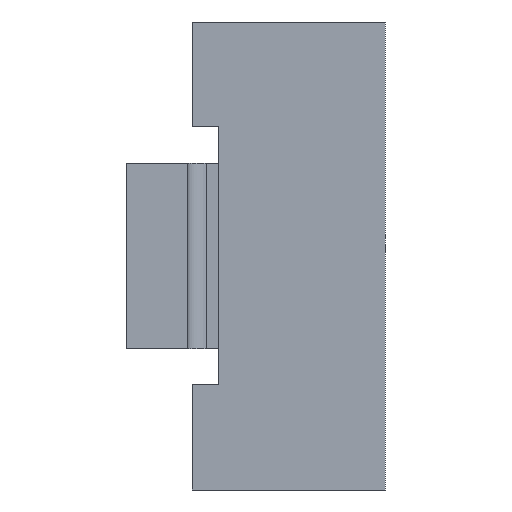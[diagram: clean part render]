
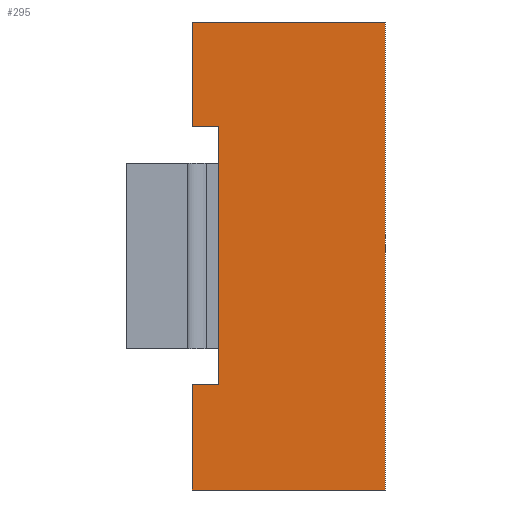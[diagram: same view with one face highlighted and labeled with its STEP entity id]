
A CAD part, left-side view. The second image highlights one B-rep face of the part: STEP entity #295.
In plain terms, the highlighted planar face has unit normal (-1, 0, 0).
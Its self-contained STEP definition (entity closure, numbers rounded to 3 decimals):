
#175=PLANE('',#2525);
#295=ADVANCED_FACE('',(#415),#175,.T.);
#415=FACE_OUTER_BOUND('',#544,.F.);
#544=EDGE_LOOP('',(#1182,#1183,#1184,#1185,#1186,#1187,#1188,#1189));
#1182=ORIENTED_EDGE('',*,*,#1228,.F.);
#1183=ORIENTED_EDGE('',*,*,#1229,.F.);
#1184=ORIENTED_EDGE('',*,*,#1230,.T.);
#1185=ORIENTED_EDGE('',*,*,#1218,.F.);
#1186=ORIENTED_EDGE('',*,*,#1231,.T.);
#1187=ORIENTED_EDGE('',*,*,#1232,.T.);
#1188=ORIENTED_EDGE('',*,*,#1233,.T.);
#1189=ORIENTED_EDGE('',*,*,#1234,.T.);
#1218=EDGE_CURVE('',#2392,#2391,#1545,.T.);
#1228=EDGE_CURVE('',#2382,#2381,#1553,.T.);
#1229=EDGE_CURVE('',#2380,#2382,#1554,.T.);
#1230=EDGE_CURVE('',#2380,#2391,#1555,.T.);
#1231=EDGE_CURVE('',#2392,#2379,#1556,.T.);
#1232=EDGE_CURVE('',#2379,#2378,#1557,.T.);
#1233=EDGE_CURVE('',#2378,#2377,#1558,.T.);
#1234=EDGE_CURVE('',#2377,#2381,#1559,.T.);
#1545=LINE('',#3330,#1860);
#1553=LINE('',#3340,#1868);
#1554=LINE('',#3341,#1869);
#1555=LINE('',#3342,#1870);
#1556=LINE('',#3343,#1871);
#1557=LINE('',#3344,#1872);
#1558=LINE('',#3345,#1873);
#1559=LINE('',#3346,#1874);
#1860=VECTOR('',#2530,5.3);
#1868=VECTOR('',#2542,7.09);
#1869=VECTOR('',#2543,0.73);
#1870=VECTOR('',#2544,2.875);
#1871=VECTOR('',#2545,12.85);
#1872=VECTOR('',#2546,5.3);
#1873=VECTOR('',#2547,2.885);
#1874=VECTOR('',#2548,0.73);
#2377=VERTEX_POINT('',#3314);
#2378=VERTEX_POINT('',#3315);
#2379=VERTEX_POINT('',#3316);
#2380=VERTEX_POINT('',#3317);
#2381=VERTEX_POINT('',#3318);
#2382=VERTEX_POINT('',#3319);
#2391=VERTEX_POINT('',#3328);
#2392=VERTEX_POINT('',#3329);
#2525=AXIS2_PLACEMENT_3D('',#3775,#3105,#3106);
#2530=DIRECTION('',(0.,1.,0.));
#2542=DIRECTION('',(0.,0.,-1.));
#2543=DIRECTION('',(0.,-1.,0.));
#2544=DIRECTION('',(0.,0.,1.));
#2545=DIRECTION('',(0.,0.,-1.));
#2546=DIRECTION('',(0.,1.,0.));
#2547=DIRECTION('',(0.,0.,1.));
#2548=DIRECTION('',(0.,-1.,0.));
#3105=DIRECTION('',(-1.,0.,0.));
#3106=DIRECTION('',(0.,1.,0.));
#3314=CARTESIAN_POINT('',(-226.304,-7.535,-665.291));
#3315=CARTESIAN_POINT('',(-226.304,-7.535,-668.176));
#3316=CARTESIAN_POINT('',(-226.304,-12.835,-668.176));
#3317=CARTESIAN_POINT('',(-226.304,-7.535,-658.201));
#3318=CARTESIAN_POINT('',(-226.304,-8.265,-665.291));
#3319=CARTESIAN_POINT('',(-226.304,-8.265,-658.201));
#3328=CARTESIAN_POINT('',(-226.304,-7.535,-655.326));
#3329=CARTESIAN_POINT('',(-226.304,-12.835,-655.326));
#3330=CARTESIAN_POINT('',(-226.304,-12.835,-655.326));
#3340=CARTESIAN_POINT('',(-226.304,-8.265,-658.201));
#3341=CARTESIAN_POINT('',(-226.304,-7.535,-658.201));
#3342=CARTESIAN_POINT('',(-226.304,-7.535,-658.201));
#3343=CARTESIAN_POINT('',(-226.304,-12.835,-655.326));
#3344=CARTESIAN_POINT('',(-226.304,-12.835,-668.176));
#3345=CARTESIAN_POINT('',(-226.304,-7.535,-668.176));
#3346=CARTESIAN_POINT('',(-226.304,-7.535,-665.291));
#3775=CARTESIAN_POINT('',(-226.304,-13.478,-654.683));
